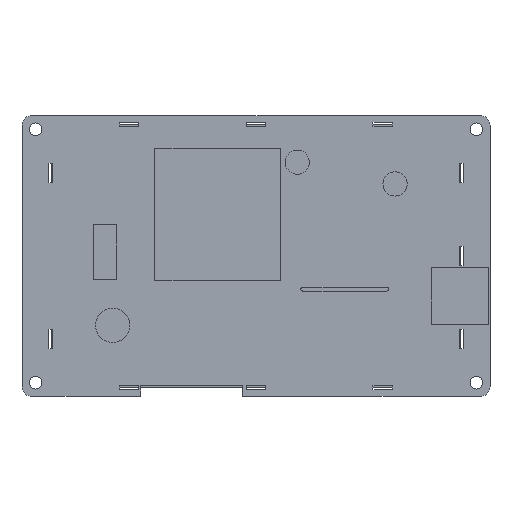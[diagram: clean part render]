
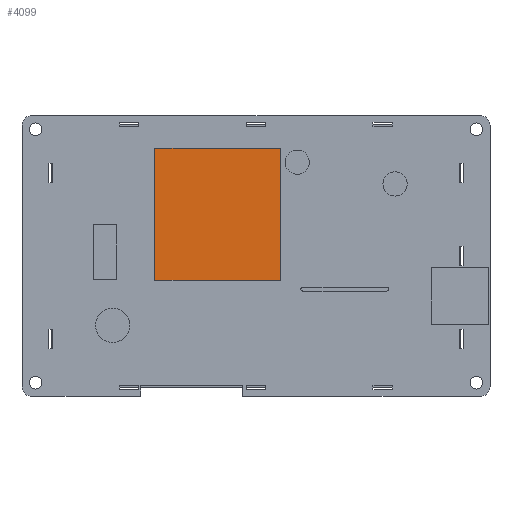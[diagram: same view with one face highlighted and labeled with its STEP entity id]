
A CAD part, top view. The second image highlights one B-rep face of the part: STEP entity #4099.
In plain terms, the highlighted planar face has unit normal (0, 0, 1).
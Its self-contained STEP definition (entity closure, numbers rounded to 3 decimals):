
#1412=DIRECTION('',(0.,-1.,0.));
#1413=VECTOR('',#1412,34.417);
#1414=CARTESIAN_POINT('',(-26.345,28.103,11.8));
#1415=LINE('',#1414,#1413);
#1416=DIRECTION('',(-1.,0.,0.));
#1417=VECTOR('',#1416,32.766);
#1418=CARTESIAN_POINT('',(6.421,28.103,11.8));
#1419=LINE('',#1418,#1417);
#1420=DIRECTION('',(0.,1.,0.));
#1421=VECTOR('',#1420,34.417);
#1422=CARTESIAN_POINT('',(6.421,-6.314,11.8));
#1423=LINE('',#1422,#1421);
#1424=DIRECTION('',(1.,0.,0.));
#1425=VECTOR('',#1424,32.766);
#1426=CARTESIAN_POINT('',(-26.345,-6.314,11.8));
#1427=LINE('',#1426,#1425);
#1806=CARTESIAN_POINT('',(-26.345,28.103,11.8));
#1807=CARTESIAN_POINT('',(-26.345,-6.314,11.8));
#1808=VERTEX_POINT('',#1806);
#1809=VERTEX_POINT('',#1807);
#1810=CARTESIAN_POINT('',(6.421,-6.314,11.8));
#1811=VERTEX_POINT('',#1810);
#1812=CARTESIAN_POINT('',(6.421,28.103,11.8));
#1813=VERTEX_POINT('',#1812);
#4088=CARTESIAN_POINT('',(-3.485,-36.578,11.8));
#4089=DIRECTION('',(0.,0.,1.));
#4090=DIRECTION('',(1.,0.,0.));
#4091=AXIS2_PLACEMENT_3D('',#4088,#4089,#4090);
#4092=PLANE('',#4091);
#4093=ORIENTED_EDGE('',*,*,#4040,.F.);
#4094=ORIENTED_EDGE('',*,*,#4055,.F.);
#4095=ORIENTED_EDGE('',*,*,#4069,.F.);
#4096=ORIENTED_EDGE('',*,*,#4082,.F.);
#4097=EDGE_LOOP('',(#4093,#4094,#4095,#4096));
#4098=FACE_OUTER_BOUND('',#4097,.F.);
#4040=EDGE_CURVE('',#1808,#1809,#1415,.T.);
#4055=EDGE_CURVE('',#1813,#1808,#1419,.T.);
#4069=EDGE_CURVE('',#1811,#1813,#1423,.T.);
#4082=EDGE_CURVE('',#1809,#1811,#1427,.T.);
#4099=ADVANCED_FACE('',(#4098),#4092,.T.);
